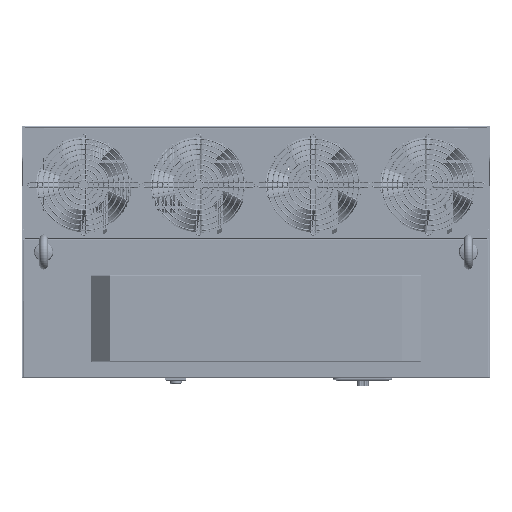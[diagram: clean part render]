
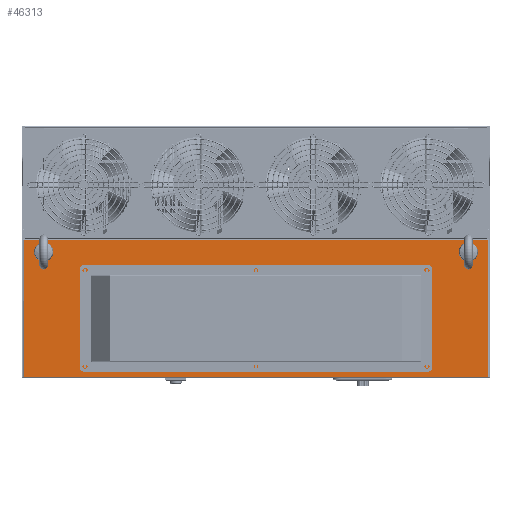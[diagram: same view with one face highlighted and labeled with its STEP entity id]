
A CAD part, left-side view. The second image highlights one B-rep face of the part: STEP entity #46313.
In plain terms, the highlighted planar face has unit normal (-1, 0, 0).
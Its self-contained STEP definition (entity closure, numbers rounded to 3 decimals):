
#36573=DIRECTION('',(0.,1.,0.));
#36574=VECTOR('',#36573,698.6);
#36575=CARTESIAN_POINT('',(-469.25,-349.3,-171.7));
#36576=LINE('',#36575,#36574);
#37332=DIRECTION('',(0.,0.,-1.));
#37333=VECTOR('',#37332,206.6);
#37334=CARTESIAN_POINT('',(-469.25,349.3,-171.7));
#37335=LINE('',#37334,#37333);
#37336=CARTESIAN_POINT('',(-469.25,320.,-190.));
#37337=DIRECTION('',(-1.,0.,0.));
#37338=DIRECTION('',(0.,-1.,0.));
#37339=AXIS2_PLACEMENT_3D('',#37336,#37337,#37338);
#37341=CARTESIAN_POINT('',(-469.25,320.,-190.));
#37342=DIRECTION('',(-1.,0.,0.));
#37343=DIRECTION('',(0.,1.,0.));
#37344=AXIS2_PLACEMENT_3D('',#37341,#37342,#37343);
#37346=CARTESIAN_POINT('',(-469.25,-320.,-190.));
#37347=DIRECTION('',(-1.,0.,0.));
#37348=DIRECTION('',(0.,-1.,0.));
#37349=AXIS2_PLACEMENT_3D('',#37346,#37347,#37348);
#37351=CARTESIAN_POINT('',(-469.25,-320.,-190.));
#37352=DIRECTION('',(-1.,0.,0.));
#37353=DIRECTION('',(0.,1.,0.));
#37354=AXIS2_PLACEMENT_3D('',#37351,#37352,#37353);
#37356=CARTESIAN_POINT('',(-469.25,257.5,-362.5));
#37357=DIRECTION('',(-1.,0.,0.));
#37358=DIRECTION('',(0.,-1.,0.));
#37359=AXIS2_PLACEMENT_3D('',#37356,#37357,#37358);
#37361=CARTESIAN_POINT('',(-469.25,257.5,-362.5));
#37362=DIRECTION('',(-1.,0.,0.));
#37363=DIRECTION('',(0.,1.,0.));
#37364=AXIS2_PLACEMENT_3D('',#37361,#37362,#37363);
#37366=CARTESIAN_POINT('',(-469.25,257.5,-217.5));
#37367=DIRECTION('',(-1.,0.,0.));
#37368=DIRECTION('',(0.,-1.,0.));
#37369=AXIS2_PLACEMENT_3D('',#37366,#37367,#37368);
#37371=CARTESIAN_POINT('',(-469.25,257.5,-217.5));
#37372=DIRECTION('',(-1.,0.,0.));
#37373=DIRECTION('',(0.,1.,0.));
#37374=AXIS2_PLACEMENT_3D('',#37371,#37372,#37373);
#37376=CARTESIAN_POINT('',(-469.25,0.,-217.5));
#37377=DIRECTION('',(-1.,0.,0.));
#37378=DIRECTION('',(0.,-1.,0.));
#37379=AXIS2_PLACEMENT_3D('',#37376,#37377,#37378);
#37381=CARTESIAN_POINT('',(-469.25,0.,-217.5));
#37382=DIRECTION('',(-1.,0.,0.));
#37383=DIRECTION('',(0.,1.,0.));
#37384=AXIS2_PLACEMENT_3D('',#37381,#37382,#37383);
#37386=CARTESIAN_POINT('',(-469.25,0.,-362.5));
#37387=DIRECTION('',(-1.,0.,0.));
#37388=DIRECTION('',(0.,-1.,0.));
#37389=AXIS2_PLACEMENT_3D('',#37386,#37387,#37388);
#37391=CARTESIAN_POINT('',(-469.25,0.,-362.5));
#37392=DIRECTION('',(-1.,0.,0.));
#37393=DIRECTION('',(0.,1.,0.));
#37394=AXIS2_PLACEMENT_3D('',#37391,#37392,#37393);
#37396=CARTESIAN_POINT('',(-469.25,-257.5,-362.5));
#37397=DIRECTION('',(-1.,0.,0.));
#37398=DIRECTION('',(0.,-1.,0.));
#37399=AXIS2_PLACEMENT_3D('',#37396,#37397,#37398);
#37401=CARTESIAN_POINT('',(-469.25,-257.5,-362.5));
#37402=DIRECTION('',(-1.,0.,0.));
#37403=DIRECTION('',(0.,1.,0.));
#37404=AXIS2_PLACEMENT_3D('',#37401,#37402,#37403);
#37406=CARTESIAN_POINT('',(-469.25,-257.5,-217.5));
#37407=DIRECTION('',(-1.,0.,0.));
#37408=DIRECTION('',(0.,-1.,0.));
#37409=AXIS2_PLACEMENT_3D('',#37406,#37407,#37408);
#37411=CARTESIAN_POINT('',(-469.25,-257.5,-217.5));
#37412=DIRECTION('',(-1.,0.,0.));
#37413=DIRECTION('',(0.,1.,0.));
#37414=AXIS2_PLACEMENT_3D('',#37411,#37412,#37413);
#37420=DIRECTION('',(0.,0.,1.));
#37421=VECTOR('',#37420,206.6);
#37422=CARTESIAN_POINT('',(-469.25,-349.3,-378.3));
#37423=LINE('',#37422,#37421);
#37643=DIRECTION('',(0.,-1.,0.));
#37644=VECTOR('',#37643,698.6);
#37645=CARTESIAN_POINT('',(-469.25,349.3,-378.3));
#37646=LINE('',#37645,#37644);
#38090=DIRECTION('',(0.,0.,-1.));
#38091=VECTOR('',#38090,2.);
#38092=CARTESIAN_POINT('',(-469.25,-193.5,-331.2));
#38093=LINE('',#38092,#38091);
#38158=DIRECTION('',(0.,0.,-1.));
#38159=VECTOR('',#38158,2.);
#38160=CARTESIAN_POINT('',(-469.25,-193.5,-246.8));
#38161=LINE('',#38160,#38159);
#38162=DIRECTION('',(0.,-1.,0.));
#38163=VECTOR('',#38162,387.);
#38164=CARTESIAN_POINT('',(-469.25,193.5,-246.8));
#38165=LINE('',#38164,#38163);
#38174=DIRECTION('',(0.,0.,1.));
#38175=VECTOR('',#38174,2.);
#38176=CARTESIAN_POINT('',(-469.25,193.5,-248.8));
#38177=LINE('',#38176,#38175);
#38242=DIRECTION('',(0.,0.,1.));
#38243=VECTOR('',#38242,2.);
#38244=CARTESIAN_POINT('',(-469.25,193.5,-333.2));
#38245=LINE('',#38244,#38243);
#38246=DIRECTION('',(0.,1.,0.));
#38247=VECTOR('',#38246,387.);
#38248=CARTESIAN_POINT('',(-469.25,-193.5,-333.2));
#38249=LINE('',#38248,#38247);
#38258=DIRECTION('',(0.,0.,1.));
#38259=VECTOR('',#38258,82.4);
#38260=CARTESIAN_POINT('',(-469.25,193.5,-331.2));
#38261=LINE('',#38260,#38259);
#38278=DIRECTION('',(0.,0.,-1.));
#38279=VECTOR('',#38278,82.4);
#38280=CARTESIAN_POINT('',(-469.25,-193.5,-248.8));
#38281=LINE('',#38280,#38279);
#43011=CARTESIAN_POINT('',(-469.25,-349.3,-171.7));
#43012=VERTEX_POINT('',#43011);
#43013=CARTESIAN_POINT('',(-469.25,349.3,-171.7));
#43014=VERTEX_POINT('',#43013);
#43470=CARTESIAN_POINT('',(-469.25,349.3,-378.3));
#43471=VERTEX_POINT('',#43470);
#43472=CARTESIAN_POINT('',(-469.25,-349.3,-378.3));
#43473=VERTEX_POINT('',#43472);
#43474=CARTESIAN_POINT('',(-469.25,313.,-190.));
#43475=CARTESIAN_POINT('',(-469.25,327.,-190.));
#43476=VERTEX_POINT('',#43474);
#43477=VERTEX_POINT('',#43475);
#43478=CARTESIAN_POINT('',(-469.25,-327.,-190.));
#43479=CARTESIAN_POINT('',(-469.25,-313.,-190.));
#43480=VERTEX_POINT('',#43478);
#43481=VERTEX_POINT('',#43479);
#43482=CARTESIAN_POINT('',(-469.25,-193.5,-246.8));
#43483=CARTESIAN_POINT('',(-469.25,-193.5,-248.8));
#43484=VERTEX_POINT('',#43482);
#43485=VERTEX_POINT('',#43483);
#43486=CARTESIAN_POINT('',(-469.25,193.5,-246.8));
#43487=VERTEX_POINT('',#43486);
#43488=CARTESIAN_POINT('',(-469.25,193.5,-248.8));
#43489=VERTEX_POINT('',#43488);
#43490=CARTESIAN_POINT('',(-469.25,193.5,-331.2));
#43491=VERTEX_POINT('',#43490);
#43492=CARTESIAN_POINT('',(-469.25,193.5,-333.2));
#43493=VERTEX_POINT('',#43492);
#43494=CARTESIAN_POINT('',(-469.25,-193.5,-333.2));
#43495=VERTEX_POINT('',#43494);
#43496=CARTESIAN_POINT('',(-469.25,-193.5,-331.2));
#43497=VERTEX_POINT('',#43496);
#43498=CARTESIAN_POINT('',(-469.25,255.4,-362.5));
#43499=CARTESIAN_POINT('',(-469.25,259.6,-362.5));
#43500=VERTEX_POINT('',#43498);
#43501=VERTEX_POINT('',#43499);
#43502=CARTESIAN_POINT('',(-469.25,255.4,-217.5));
#43503=CARTESIAN_POINT('',(-469.25,259.6,-217.5));
#43504=VERTEX_POINT('',#43502);
#43505=VERTEX_POINT('',#43503);
#43506=CARTESIAN_POINT('',(-469.25,-2.1,-217.5));
#43507=CARTESIAN_POINT('',(-469.25,2.1,-217.5));
#43508=VERTEX_POINT('',#43506);
#43509=VERTEX_POINT('',#43507);
#43510=CARTESIAN_POINT('',(-469.25,-2.1,-362.5));
#43511=CARTESIAN_POINT('',(-469.25,2.1,-362.5));
#43512=VERTEX_POINT('',#43510);
#43513=VERTEX_POINT('',#43511);
#43514=CARTESIAN_POINT('',(-469.25,-259.6,-362.5));
#43515=CARTESIAN_POINT('',(-469.25,-255.4,-362.5));
#43516=VERTEX_POINT('',#43514);
#43517=VERTEX_POINT('',#43515);
#43518=CARTESIAN_POINT('',(-469.25,-259.6,-217.5));
#43519=CARTESIAN_POINT('',(-469.25,-255.4,-217.5));
#43520=VERTEX_POINT('',#43518);
#43521=VERTEX_POINT('',#43519);
#46234=CARTESIAN_POINT('',(-469.25,-352.5,-380.));
#46235=DIRECTION('',(-1.,0.,0.));
#46236=DIRECTION('',(0.,0.,1.));
#46237=AXIS2_PLACEMENT_3D('',#46234,#46235,#46236);
#46238=PLANE('',#46237);
#46240=ORIENTED_EDGE('',*,*,#46239,.F.);
#46242=ORIENTED_EDGE('',*,*,#46241,.F.);
#46243=ORIENTED_EDGE('',*,*,#46220,.F.);
#46244=ORIENTED_EDGE('',*,*,#45214,.F.);
#46245=EDGE_LOOP('',(#46240,#46242,#46243,#46244));
#46246=FACE_OUTER_BOUND('',#46245,.F.);
#46248=ORIENTED_EDGE('',*,*,#46247,.T.);
#46250=ORIENTED_EDGE('',*,*,#46249,.T.);
#46251=EDGE_LOOP('',(#46248,#46250));
#46252=FACE_BOUND('',#46251,.F.);
#46254=ORIENTED_EDGE('',*,*,#46253,.T.);
#46256=ORIENTED_EDGE('',*,*,#46255,.T.);
#46257=EDGE_LOOP('',(#46254,#46256));
#46258=FACE_BOUND('',#46257,.F.);
#46260=ORIENTED_EDGE('',*,*,#46259,.F.);
#46262=ORIENTED_EDGE('',*,*,#46261,.F.);
#46264=ORIENTED_EDGE('',*,*,#46263,.F.);
#46266=ORIENTED_EDGE('',*,*,#46265,.F.);
#46268=ORIENTED_EDGE('',*,*,#46267,.F.);
#46270=ORIENTED_EDGE('',*,*,#46269,.F.);
#46272=ORIENTED_EDGE('',*,*,#46271,.F.);
#46274=ORIENTED_EDGE('',*,*,#46273,.F.);
#46275=EDGE_LOOP('',(#46260,#46262,#46264,#46266,#46268,#46270,#46272,#46274));
#46276=FACE_BOUND('',#46275,.F.);
#46278=ORIENTED_EDGE('',*,*,#46277,.T.);
#46280=ORIENTED_EDGE('',*,*,#46279,.T.);
#46281=EDGE_LOOP('',(#46278,#46280));
#46282=FACE_BOUND('',#46281,.F.);
#46284=ORIENTED_EDGE('',*,*,#46283,.T.);
#46286=ORIENTED_EDGE('',*,*,#46285,.T.);
#46287=EDGE_LOOP('',(#46284,#46286));
#46288=FACE_BOUND('',#46287,.F.);
#46290=ORIENTED_EDGE('',*,*,#46289,.T.);
#46292=ORIENTED_EDGE('',*,*,#46291,.T.);
#46293=EDGE_LOOP('',(#46290,#46292));
#46294=FACE_BOUND('',#46293,.F.);
#46296=ORIENTED_EDGE('',*,*,#46295,.T.);
#46298=ORIENTED_EDGE('',*,*,#46297,.T.);
#46299=EDGE_LOOP('',(#46296,#46298));
#46300=FACE_BOUND('',#46299,.F.);
#46302=ORIENTED_EDGE('',*,*,#46301,.T.);
#46304=ORIENTED_EDGE('',*,*,#46303,.T.);
#46305=EDGE_LOOP('',(#46302,#46304));
#46306=FACE_BOUND('',#46305,.F.);
#46308=ORIENTED_EDGE('',*,*,#46307,.T.);
#46310=ORIENTED_EDGE('',*,*,#46309,.T.);
#46311=EDGE_LOOP('',(#46308,#46310));
#46312=FACE_BOUND('',#46311,.F.);
#37340=CIRCLE('',#37339,7.);
#37345=CIRCLE('',#37344,7.);
#37350=CIRCLE('',#37349,7.);
#37355=CIRCLE('',#37354,7.);
#37360=CIRCLE('',#37359,2.1);
#37365=CIRCLE('',#37364,2.1);
#37370=CIRCLE('',#37369,2.1);
#37375=CIRCLE('',#37374,2.1);
#37380=CIRCLE('',#37379,2.1);
#37385=CIRCLE('',#37384,2.1);
#37390=CIRCLE('',#37389,2.1);
#37395=CIRCLE('',#37394,2.1);
#37400=CIRCLE('',#37399,2.1);
#37405=CIRCLE('',#37404,2.1);
#37410=CIRCLE('',#37409,2.1);
#37415=CIRCLE('',#37414,2.1);
#45214=EDGE_CURVE('',#43012,#43014,#36576,.T.);
#46220=EDGE_CURVE('',#43014,#43471,#37335,.T.);
#46239=EDGE_CURVE('',#43473,#43012,#37423,.T.);
#46241=EDGE_CURVE('',#43471,#43473,#37646,.T.);
#46247=EDGE_CURVE('',#43476,#43477,#37340,.T.);
#46249=EDGE_CURVE('',#43477,#43476,#37345,.T.);
#46253=EDGE_CURVE('',#43480,#43481,#37350,.T.);
#46255=EDGE_CURVE('',#43481,#43480,#37355,.T.);
#46259=EDGE_CURVE('',#43484,#43485,#38161,.T.);
#46261=EDGE_CURVE('',#43487,#43484,#38165,.T.);
#46263=EDGE_CURVE('',#43489,#43487,#38177,.T.);
#46265=EDGE_CURVE('',#43491,#43489,#38261,.T.);
#46267=EDGE_CURVE('',#43493,#43491,#38245,.T.);
#46269=EDGE_CURVE('',#43495,#43493,#38249,.T.);
#46271=EDGE_CURVE('',#43497,#43495,#38093,.T.);
#46273=EDGE_CURVE('',#43485,#43497,#38281,.T.);
#46277=EDGE_CURVE('',#43500,#43501,#37360,.T.);
#46279=EDGE_CURVE('',#43501,#43500,#37365,.T.);
#46283=EDGE_CURVE('',#43504,#43505,#37370,.T.);
#46285=EDGE_CURVE('',#43505,#43504,#37375,.T.);
#46289=EDGE_CURVE('',#43508,#43509,#37380,.T.);
#46291=EDGE_CURVE('',#43509,#43508,#37385,.T.);
#46295=EDGE_CURVE('',#43512,#43513,#37390,.T.);
#46297=EDGE_CURVE('',#43513,#43512,#37395,.T.);
#46301=EDGE_CURVE('',#43516,#43517,#37400,.T.);
#46303=EDGE_CURVE('',#43517,#43516,#37405,.T.);
#46307=EDGE_CURVE('',#43520,#43521,#37410,.T.);
#46309=EDGE_CURVE('',#43521,#43520,#37415,.T.);
#46313=ADVANCED_FACE('',(#46246,#46252,#46258,#46276,#46282,#46288,#46294,
#46300,#46306,#46312),#46238,.T.);
